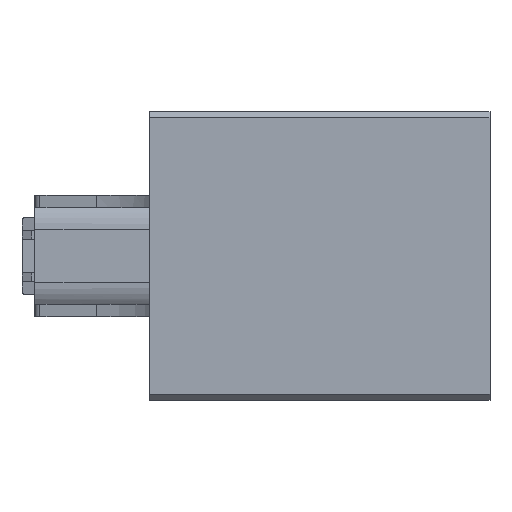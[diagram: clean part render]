
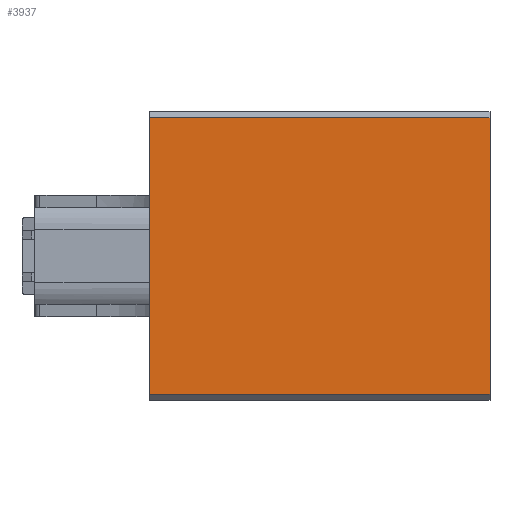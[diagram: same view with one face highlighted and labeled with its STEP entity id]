
A CAD part, front view. The second image highlights one B-rep face of the part: STEP entity #3937.
In plain terms, the highlighted planar face has unit normal (0, -1, 0).
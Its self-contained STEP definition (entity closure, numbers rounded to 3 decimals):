
#284 = ORIENTED_EDGE ( 'NONE', *, *, #8523, .T. ) ;
#1312 = VECTOR ( 'NONE', #9796, 1000. ) ;
#2192 = EDGE_CURVE ( 'NONE', #4047, #9035, #20831, .T. ) ;
#3459 = CARTESIAN_POINT ( 'NONE',  ( 0., -22.5, -21.5 ) ) ;
#3870 = VECTOR ( 'NONE', #16357, 1000. ) ;
#3937 = ADVANCED_FACE ( 'NONE', ( #22140 ), #15020, .F. ) ;
#4047 = VERTEX_POINT ( 'NONE', #13413 ) ;
#8523 = EDGE_CURVE ( 'NONE', #18502, #10432, #9620, .T. ) ;
#9018 = EDGE_CURVE ( 'NONE', #4047, #18502, #19704, .T. ) ;
#9035 = VERTEX_POINT ( 'NONE', #9603 ) ;
#9056 = EDGE_CURVE ( 'NONE', #10432, #9035, #10296, .T. ) ;
#9354 = DIRECTION ( 'NONE',  ( 1., 0., 0. ) ) ;
#9372 = CARTESIAN_POINT ( 'NONE',  ( 53., -22.5, -21.5 ) ) ;
#9603 = CARTESIAN_POINT ( 'NONE',  ( 53., -22.5, -21.5 ) ) ;
#9620 = LINE ( 'NONE', #16531, #3870 ) ;
#9709 = CARTESIAN_POINT ( 'NONE',  ( 53., -22.5, 21.5 ) ) ;
#9796 = DIRECTION ( 'NONE',  ( -1., 0., 0. ) ) ;
#10296 = LINE ( 'NONE', #9372, #19069 ) ;
#10432 = VERTEX_POINT ( 'NONE', #3459 ) ;
#12036 = EDGE_LOOP ( 'NONE', ( #284, #17149, #16153, #12911 ) ) ;
#12911 = ORIENTED_EDGE ( 'NONE', *, *, #9018, .T. ) ;
#13029 = DIRECTION ( 'NONE',  ( 0., 0., -1. ) ) ;
#13413 = CARTESIAN_POINT ( 'NONE',  ( 53., -22.5, 21.5 ) ) ;
#14774 = DIRECTION ( 'NONE',  ( 0., 0., 1. ) ) ;
#14794 = DIRECTION ( 'NONE',  ( 0., 1., 0. ) ) ;
#14820 = CARTESIAN_POINT ( 'NONE',  ( 53., -22.5, 22.5 ) ) ;
#15020 = PLANE ( 'NONE',  #22446 ) ;
#16153 = ORIENTED_EDGE ( 'NONE', *, *, #2192, .F. ) ;
#16357 = DIRECTION ( 'NONE',  ( 0., 0., -1. ) ) ;
#16531 = CARTESIAN_POINT ( 'NONE',  ( 0., -22.5, 22.5 ) ) ;
#17149 = ORIENTED_EDGE ( 'NONE', *, *, #9056, .T. ) ;
#17779 = VECTOR ( 'NONE', #13029, 1000. ) ;
#18502 = VERTEX_POINT ( 'NONE', #22123 ) ;
#19069 = VECTOR ( 'NONE', #9354, 1000. ) ;
#19704 = LINE ( 'NONE', #9709, #1312 ) ;
#20294 = CARTESIAN_POINT ( 'NONE',  ( 53., -22.5, 22.5 ) ) ;
#20831 = LINE ( 'NONE', #20294, #17779 ) ;
#22123 = CARTESIAN_POINT ( 'NONE',  ( 0., -22.5, 21.5 ) ) ;
#22140 = FACE_OUTER_BOUND ( 'NONE', #12036, .T. ) ;
#22446 = AXIS2_PLACEMENT_3D ( 'NONE', #14820, #14794, #14774 ) ;
